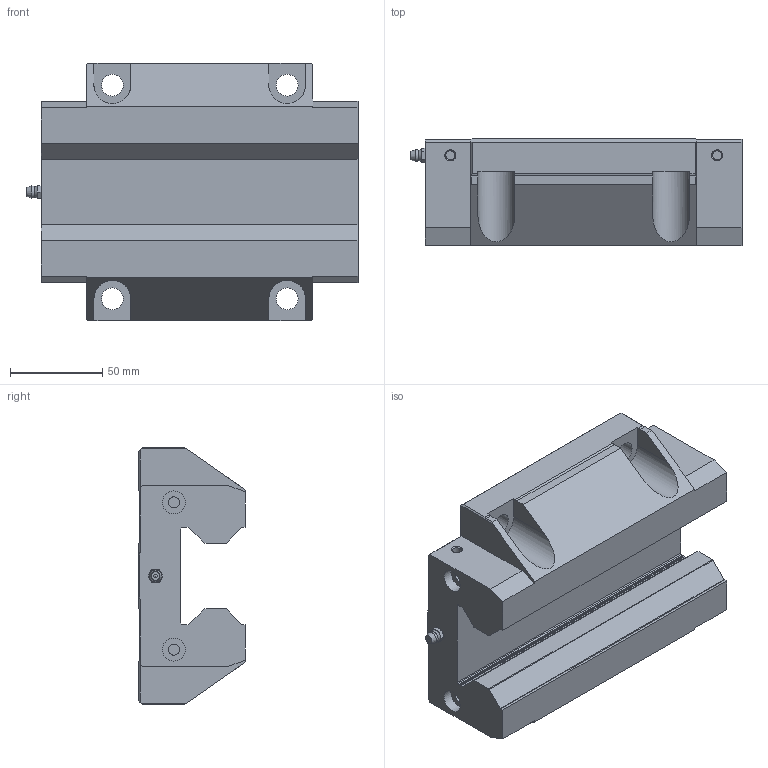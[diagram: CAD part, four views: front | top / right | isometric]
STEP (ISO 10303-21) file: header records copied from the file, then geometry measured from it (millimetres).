
FILE_DESCRIPTION(/* description */ ('STEP AP214'),/* implementation_level */ '2;1');
FILE_NAME(/* name */ 'ERG55P6CC1N0______CAD_NO_(A-MT61)',/* time_stamp */ '2026-05-18T11:17:15+02:00',/* author */ ('License CC BY-ND 4.0'),/* organization */ ('CADENAS'),/* preprocessor_version */ 'ST-DEVELOPER v20',/* originating_system */ 'PARTsolutions',/* authorisation */ ' ');
FILE_SCHEMA (('AUTOMOTIVE_DESIGN {1 0 10303 214 3 1 1}'));
Length unit declared in the file: millimetre
Products named in the file (3): ERG55P6CC1N0______CAD_NO_(A-MT61); ERG55C01 Slider; hsr_ftht_A-M6F_grease_nipple_joint
Assembly tree (2 placements, depth 2):
  ERG55P6CC1N0______CAD_NO_(A-MT61)
    ERG55C01 Slider
    hsr_ftht_A-M6F_grease_nipple_joint
Bounding box: 180.41 x 58 x 140 mm (x, y, z)
Volume: 867992.8 mm3; surface area: 95288.2 mm2
Topology: 2 solids, 2 shells, 184 faces, 465 edges, 304 vertices
Faces by surface type: plane 109, cylinder 51, cone 21, sphere 2, torus 1
Full cylindrical faces by diameter (mm): 4.917 x6, 6 x5, 10.2 x2, 11.835 x6, 12.5 x4
Entity records: 5387 total; most frequent: CARTESIAN_POINT 981, DIRECTION 896, ORIENTED_EDGE 840, EDGE_CURVE 420, AXIS2_PLACEMENT_3D 313, VERTEX_POINT 300, LINE 270, VECTOR 270
